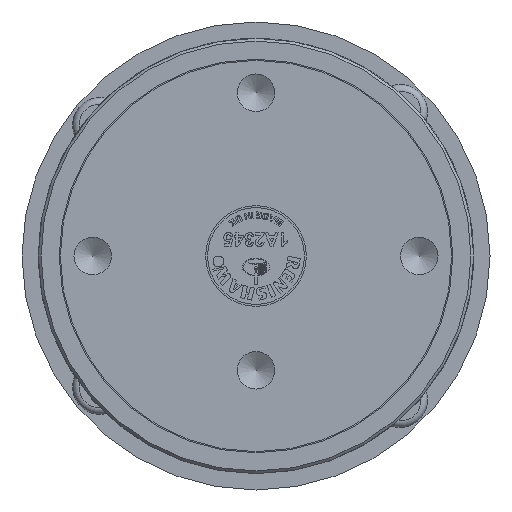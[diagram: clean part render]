
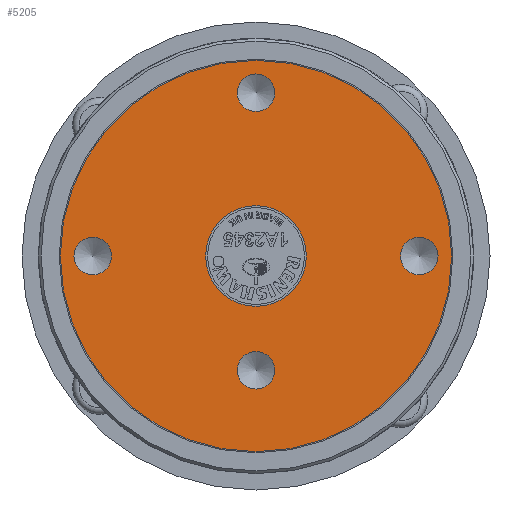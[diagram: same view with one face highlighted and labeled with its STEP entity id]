
A CAD part, left-side view. The second image highlights one B-rep face of the part: STEP entity #5205.
In plain terms, the highlighted planar face has unit normal (-1, 0, 0).
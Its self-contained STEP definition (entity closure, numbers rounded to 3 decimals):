
#5205=ADVANCED_FACE('',(#7895,#7896,#7897,#7898,#7899,#7900),#5578,.T.);
#5578=PLANE('',#13987);
#7895=FACE_BOUND('',#8521,.T.);
#7896=FACE_BOUND('',#8522,.T.);
#7897=FACE_BOUND('',#8523,.T.);
#7898=FACE_BOUND('',#8524,.T.);
#7899=FACE_BOUND('',#8525,.T.);
#7900=FACE_BOUND('',#8526,.T.);
#8521=EDGE_LOOP('',(#11115));
#8522=EDGE_LOOP('',(#11116));
#8523=EDGE_LOOP('',(#11117));
#8524=EDGE_LOOP('',(#11118));
#8525=EDGE_LOOP('',(#11119));
#8526=EDGE_LOOP('',(#11120));
#11115=ORIENTED_EDGE('',*,*,#13359,.T.);
#11116=ORIENTED_EDGE('',*,*,#13358,.T.);
#11117=ORIENTED_EDGE('',*,*,#13357,.T.);
#11118=ORIENTED_EDGE('',*,*,#13356,.T.);
#11119=ORIENTED_EDGE('',*,*,#13355,.T.);
#11120=ORIENTED_EDGE('',*,*,#13360,.F.);
#12050=VERTEX_POINT('',#19563);
#12051=VERTEX_POINT('',#19566);
#12052=VERTEX_POINT('',#19569);
#12053=VERTEX_POINT('',#19572);
#12054=VERTEX_POINT('',#19575);
#12055=VERTEX_POINT('',#19578);
#13355=EDGE_CURVE('',#12050,#12050,#13472,.T.);
#13356=EDGE_CURVE('',#12051,#12051,#13473,.T.);
#13357=EDGE_CURVE('',#12052,#12052,#13474,.T.);
#13358=EDGE_CURVE('',#12053,#12053,#13475,.T.);
#13359=EDGE_CURVE('',#12054,#12054,#13476,.T.);
#13360=EDGE_CURVE('',#12055,#12055,#13477,.T.);
#13472=CIRCLE('',#13976,9.25);
#13473=CIRCLE('',#13978,3.45);
#13474=CIRCLE('',#13980,3.45);
#13475=CIRCLE('',#13982,3.45);
#13476=CIRCLE('',#13984,3.45);
#13477=CIRCLE('',#13986,35.95);
#13976=AXIS2_PLACEMENT_3D('',#19562,#16093,#16094);
#13978=AXIS2_PLACEMENT_3D('',#19565,#16097,#16098);
#13980=AXIS2_PLACEMENT_3D('',#19568,#16101,#16102);
#13982=AXIS2_PLACEMENT_3D('',#19571,#16105,#16106);
#13984=AXIS2_PLACEMENT_3D('',#19574,#16109,#16110);
#13986=AXIS2_PLACEMENT_3D('',#19577,#16113,#16114);
#13987=AXIS2_PLACEMENT_3D('',#19579,#16115,#16116);
#16093=DIRECTION('',(1.,0.,0.));
#16094=DIRECTION('',(0.,0.,-1.));
#16097=DIRECTION('',(1.,0.,0.));
#16098=DIRECTION('',(0.,0.,-1.));
#16101=DIRECTION('',(1.,0.,0.));
#16102=DIRECTION('',(0.,0.,-1.));
#16105=DIRECTION('',(1.,0.,0.));
#16106=DIRECTION('',(0.,0.,-1.));
#16109=DIRECTION('',(1.,0.,0.));
#16110=DIRECTION('',(0.,0.,-1.));
#16113=DIRECTION('',(1.,0.,0.));
#16114=DIRECTION('',(0.,0.,-1.));
#16115=DIRECTION('',(-1.,0.,0.));
#16116=DIRECTION('',(0.,0.,1.));
#19562=CARTESIAN_POINT('',(0.,0.,0.));
#19563=CARTESIAN_POINT('',(0.,0.,-9.25));
#19565=CARTESIAN_POINT('',(0.,0.,30.));
#19566=CARTESIAN_POINT('',(0.,0.,26.55));
#19568=CARTESIAN_POINT('',(0.,0.,-21.));
#19569=CARTESIAN_POINT('',(0.,0.,-24.45));
#19571=CARTESIAN_POINT('',(0.,-30.,0.));
#19572=CARTESIAN_POINT('',(0.,-30.,-3.45));
#19574=CARTESIAN_POINT('',(0.,30.,0.));
#19575=CARTESIAN_POINT('',(0.,30.,-3.45));
#19577=CARTESIAN_POINT('',(0.,0.,0.));
#19578=CARTESIAN_POINT('',(0.,0.,-35.95));
#19579=CARTESIAN_POINT('',(0.,0.,0.));
